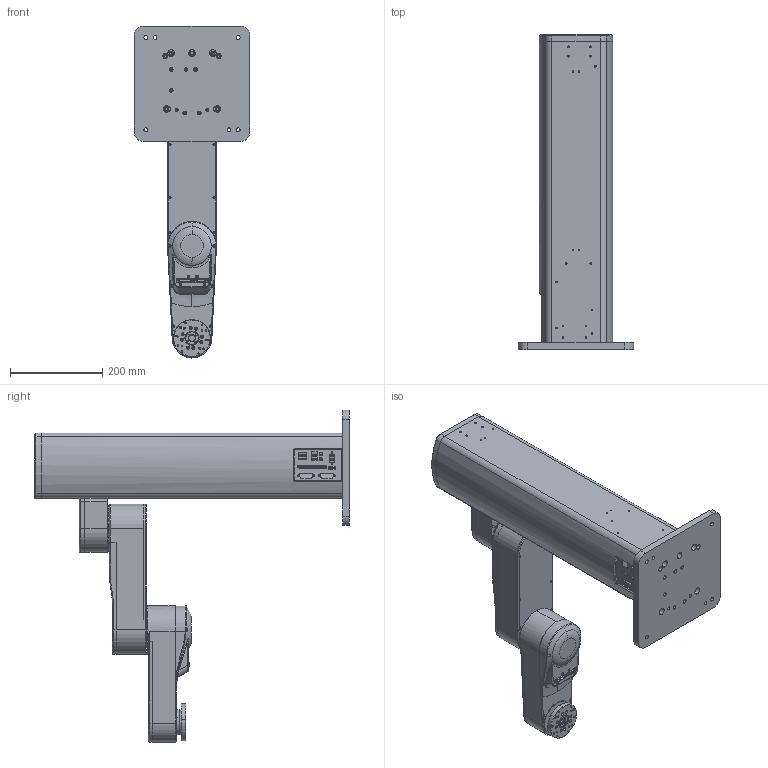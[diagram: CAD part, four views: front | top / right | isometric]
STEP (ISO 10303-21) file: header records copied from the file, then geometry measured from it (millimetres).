
FILE_DESCRIPTION (( 'STEP AP214' ), '1' );
FILE_NAME ('2442B Íâ·¢Ä£ÐÍ.STEP', '2023-12-19T03:11:20', ( '' ), ( '' ), 'SwSTEP 2.0', 'SolidWorks 2022', '' );
FILE_SCHEMA (( 'AUTOMOTIVE_DESIGN' ));
Length unit declared in the file: millimetre
Products named in the file (5): 2442B菴珨旋极郪璃; 2442B嘐隅釱郪璃; 2442B 俋楷耀倰; 2442B菴媼旋极郪璃; 2442B奻狟堍雄郪璃
Assembly tree (4 placements, depth 2):
  2442B 俋楷耀倰
    2442B奻狟堍雄郪璃
    2442B嘐隅釱郪璃
    2442B菴珨旋极郪璃
    2442B菴媼旋极郪璃
Bounding box: 250 x 683 x 720 mm (x, y, z)
Volume: 9334788.4 mm3; surface area: 1510896.3 mm2
Topology: 17 solids, 17 shells, 1922 faces, 4746 edges, 2967 vertices
Faces by surface type: cylinder 984, plane 572, cone 277, bspline 45, torus 44
Entity records: 83538 total; most frequent: CARTESIAN_POINT 15075, DIRECTION 10408, ORIENTED_EDGE 9296, EDGE_CURVE 4648, AXIS2_PLACEMENT_3D 4051, VERTEX_POINT 2967, EDGE_LOOP 2413, LINE 2306
